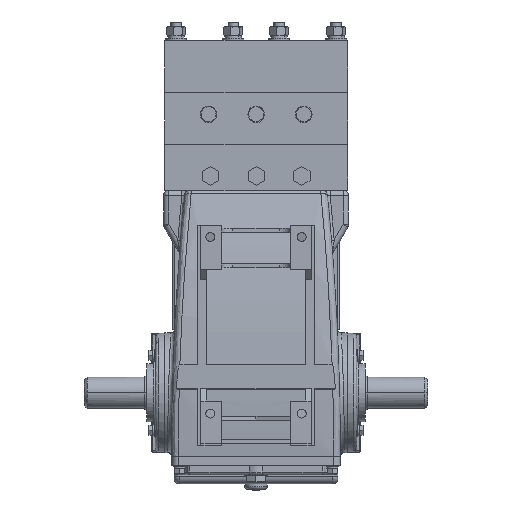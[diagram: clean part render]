
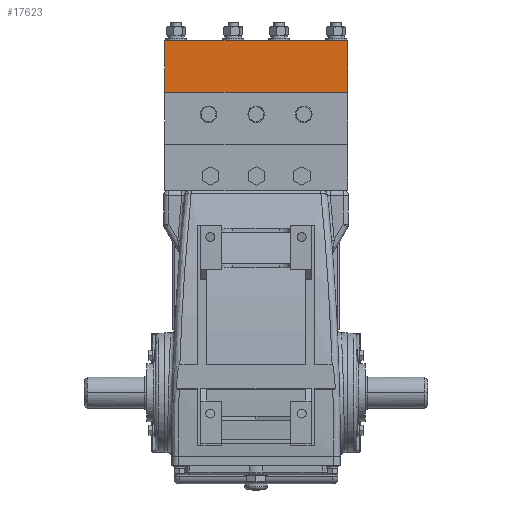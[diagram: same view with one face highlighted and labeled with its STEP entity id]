
A CAD part, front view. The second image highlights one B-rep face of the part: STEP entity #17623.
In plain terms, the highlighted planar face has unit normal (0, -1, 0).
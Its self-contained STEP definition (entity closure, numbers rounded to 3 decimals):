
#2603 = CARTESIAN_POINT ( 'NONE',  ( -69.909, -12.284, 288.869 ) ) ;
#15775 = CARTESIAN_POINT ( 'NONE',  ( 106.091, -12.284, 338.869 ) ) ;
#15826 = CARTESIAN_POINT ( 'NONE',  ( 106.091, -12.284, 288.869 ) ) ;
#16920 = VERTEX_POINT ( 'NONE', #2603 ) ;
#17543 = VERTEX_POINT ( 'NONE', #15775 ) ;
#17551 = VERTEX_POINT ( 'NONE', #15826 ) ;
#17623 = ADVANCED_FACE ( 'NONE', ( #33122 ), #32458, .F. ) ;
#17624 = EDGE_LOOP ( 'NONE', ( #17625, #17629, #17628, #17759 ) ) ;
#17625 = ORIENTED_EDGE ( 'NONE', *, *, #17627, .T. ) ;
#17627 = EDGE_CURVE ( 'NONE', #16920, #17551, #34429, .T. ) ;
#17628 = ORIENTED_EDGE ( 'NONE', *, *, #17752, .F. ) ;
#17629 = ORIENTED_EDGE ( 'NONE', *, *, #17748, .F. ) ;
#17747 = VERTEX_POINT ( 'NONE', #52145 ) ;
#17748 = EDGE_CURVE ( 'NONE', #17543, #17551, #52178, .T. ) ;
#17752 = EDGE_CURVE ( 'NONE', #17747, #17543, #52139, .T. ) ;
#17758 = EDGE_CURVE ( 'NONE', #17747, #16920, #52199, .T. ) ;
#17759 = ORIENTED_EDGE ( 'NONE', *, *, #17758, .T. ) ;
#32189 = AXIS2_PLACEMENT_3D ( 'NONE', #32410, #32407, #32729 ) ;
#32407 = DIRECTION ( 'NONE',  ( 0., 1., 0. ) ) ;
#32410 = CARTESIAN_POINT ( 'NONE',  ( -69.909, -12.284, 338.869 ) ) ;
#32458 = PLANE ( 'NONE',  #32189 ) ;
#32729 = DIRECTION ( 'NONE',  ( -1., 0., 0. ) ) ;
#33122 = FACE_OUTER_BOUND ( 'NONE', #17624, .T. ) ;
#34299 = CARTESIAN_POINT ( 'NONE',  ( -69.909, -12.284, 288.869 ) ) ;
#34333 = VECTOR ( 'NONE', #34337, 1000. ) ;
#34337 = DIRECTION ( 'NONE',  ( 1., 0., 0. ) ) ;
#34429 = LINE ( 'NONE', #34299, #34333 ) ;
#52135 = VECTOR ( 'NONE', #52186, 1000. ) ;
#52137 = DIRECTION ( 'NONE',  ( 1., 0., 0. ) ) ;
#52138 = CARTESIAN_POINT ( 'NONE',  ( -69.909, -12.284, 338.869 ) ) ;
#52139 = LINE ( 'NONE', #52138, #52162 ) ;
#52145 = CARTESIAN_POINT ( 'NONE',  ( -69.909, -12.284, 338.869 ) ) ;
#52153 = DIRECTION ( 'NONE',  ( 0., 0., -1. ) ) ;
#52154 = VECTOR ( 'NONE', #52153, 1000. ) ;
#52155 = CARTESIAN_POINT ( 'NONE',  ( -69.909, -12.284, 338.869 ) ) ;
#52160 = CARTESIAN_POINT ( 'NONE',  ( 106.091, -12.284, 338.869 ) ) ;
#52162 = VECTOR ( 'NONE', #52137, 1000. ) ;
#52178 = LINE ( 'NONE', #52160, #52135 ) ;
#52186 = DIRECTION ( 'NONE',  ( 0., 0., -1. ) ) ;
#52199 = LINE ( 'NONE', #52155, #52154 ) ;
